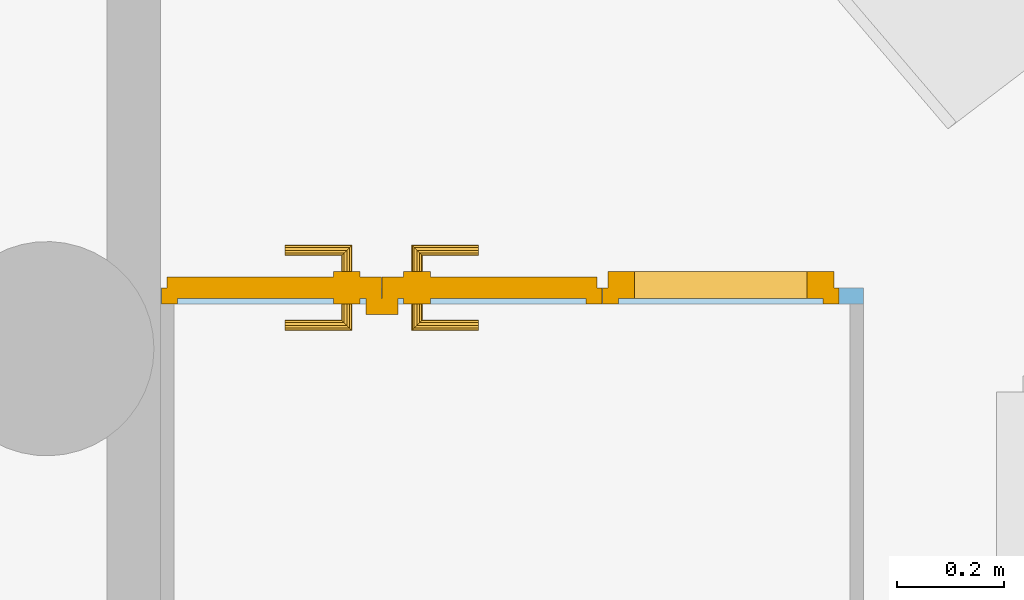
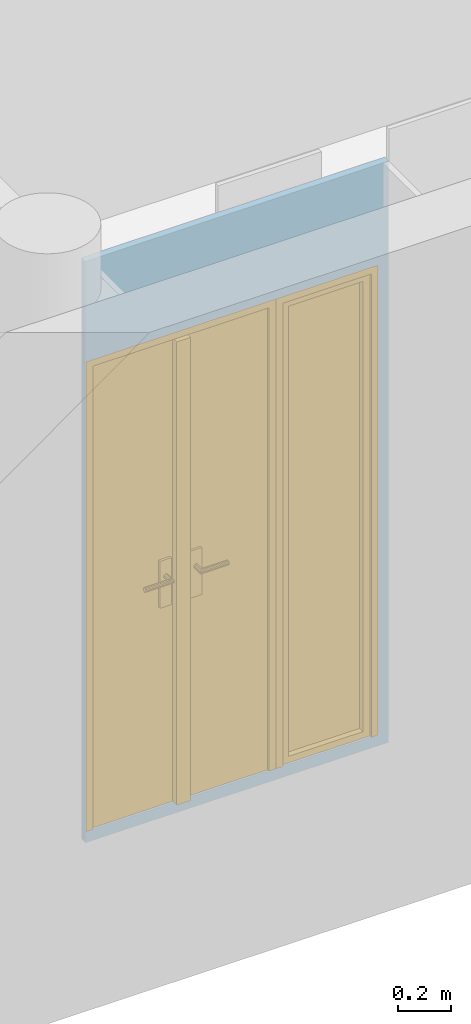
"""IFC4 building model written with IfcOpenShell, lengths in metres."""

from ifc_helpers import new_model, entity, si_unit, converted_unit, derived_unit, frame, frame_2d, origin, origin_with_axes, place, context, subcontext, project, spatial, polyline, rectangle, outline, extrude, closed_shell, open_shell, faceted_brep, surface_model, source, transform, mapped, material, layer, layer_set, layer_usage, type_object, element, fill, save


model = new_model("IFC4")

# Units and contexts
model_context = context("Model", 3, precision=1e-05, world=origin())
body_context = subcontext(model_context, "Body", "Model", "MODEL_VIEW")
ifc_project = project(units=[si_unit("LENGTHUNIT", "METRE"), si_unit("AREAUNIT", "SQUARE_METRE"), si_unit("VOLUMEUNIT", "CUBIC_METRE"), si_unit("MASSUNIT", "GRAM", prefix="KILO"), converted_unit("PLANEANGLEUNIT", "DEGREE", entity("IfcPlaneAngleMeasure", 0.0174532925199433), si_unit("PLANEANGLEUNIT", "RADIAN"), dimensions=[0, 0, 0, 0, 0, 0, 0]), derived_unit("THERMALTRANSMITTANCEUNIT", [(si_unit("POWERUNIT", "WATT"), 1), (si_unit("THERMODYNAMICTEMPERATUREUNIT", "KELVIN"), -1), (si_unit("LENGTHUNIT", "METRE"), -2)]), derived_unit("VOLUMETRICFLOWRATEUNIT", [(si_unit("LENGTHUNIT", "METRE"), 3), (converted_unit("TIMEUNIT", "hour", entity("IfcTimeMeasure", 3600.0), si_unit("TIMEUNIT", "SECOND"), dimensions=[0, 0, 1, 0, 0, 0, 0]), -1), (si_unit("LENGTHUNIT", "METRE"), -1)])], contexts=[model_context])

# Building, storeys
building_placement = place(None, origin())
building = spatial("IfcBuilding", under=ifc_project, at=building_placement, Name="HABITATGE PLURIFAMILIAR", CompositionType="ELEMENT")
storey_1_placement = place(building_placement, frame((0.0, 0.0, 12.27)))
storey_1 = spatial("IfcBuildingStorey", under=building, at=storey_1_placement, Name="PLANTA TERCERA", CompositionType="ELEMENT", Elevation=12.27)
storey_2_placement = place(storey_1_placement, frame((0.0, 0.0, 9.26)))
storey_2 = spatial("IfcBuildingStorey", under=storey_1, at=storey_2_placement, Name="NOU", CompositionType="PARTIAL")

# Wall, openings, doors
ifc_material = material()
ifc_layer = layer(ifc_material, 0.03)
ifc_layer_set = layer_set([ifc_layer])
ifc_layer_usage = layer_usage(ifc_layer_set, "AXIS2", "POSITIVE", 0.0)
wall_placement = place(storey_2_placement, frame((407.361610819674, 13.7631365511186, -9.31), z_axis=(0.0, 0.0, 1.0), x_axis=(-1.0, 0.0, 0.0)))
wall = element("IfcWall", 1, at=wall_placement, inside=storey_2, material=ifc_layer_usage, Name="Evans PA", context=body_context, shape_type="SweptSolid", body=[
    extrude(rectangle(XDim=1.31229787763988, YDim=0.03, at=frame_2d((0.656148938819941, 0.015), x_axis=(1.0, 0.0))), origin_with_axes(), (0.0, 0.0, 1.0), 2.66),
])
opening_1_placement = place(wall_placement, frame((0.487834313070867, 0.0, 0.05), z_axis=(0.0, 1.0, 0.0), x_axis=(0.0, 0.0, 1.0)))
opening_1 = element("IfcOpeningElement", 2, at=opening_1_placement, cuts=wall, Name="Vano de puerta PA", ObjectType="Opening", context=body_context, shape_type="SweptSolid", body=[
    extrude(outline(polyline([(2.15, 0.822674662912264), (2.15, 0.0), (0.0, 0.0), (0.0, 0.822674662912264), (2.15, 0.822674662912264)])), origin_with_axes(), (0.0, 0.0, 1.0), 0.03),
])
opening_2_placement = place(wall_placement, frame((0.0452878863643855, 0.0, 0.05), z_axis=(0.0, 1.0, 0.0), x_axis=(0.0, 0.0, 1.0)))
opening_2 = element("IfcOpeningElement", 3, at=opening_2_placement, cuts=wall, Name="Vano de puerta PA", ObjectType="Opening", context=body_context, shape_type="SweptSolid", body=[
    extrude(outline(polyline([(2.15, 0.441930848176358), (2.15, 0.0), (0.0, 0.0), (0.0, 0.441930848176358), (2.15, 0.441930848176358)])), origin_with_axes(), (0.0, 0.0, 1.0), 0.03),
])
shared_shape_1 = source(origin_with_axes(), body_context, "Body", "Brep", [
    faceted_brep([(0.822674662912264, 0.03, 2.15), (0.792674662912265, 0.03, 2.15), (0.792674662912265, 0.03, 0.0), (0.822674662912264, 0.03, 0.0), (0.822674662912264, 0.0, 0.0), (0.792674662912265, 0.0, 0.0), (0.792674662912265, 0.0, 2.15), (0.822674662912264, 0.0, 2.15)], [[[0, 1, 2, 3]], [[4, 5, 6, 7]], [[3, 4, 7, 0]], [[2, 5, 4, 3]], [[1, 6, 5, 2]], [[0, 7, 6, 1]]], orient=[[False], [False], [False], [False], [False], [False]]),
    faceted_brep([(0.03, 0.03, 2.15), (0.0, 0.03, 2.15), (0.0, 0.03, 0.0), (0.03, 0.03, 0.0), (0.03, 0.0, 0.0), (0.0, 0.0, 0.0), (0.0, 0.0, 2.15), (0.03, 0.0, 2.15)], [[[0, 1, 2, 3]], [[4, 5, 6, 7]], [[3, 4, 7, 0]], [[2, 5, 4, 3]], [[1, 6, 5, 2]], [[0, 7, 6, 1]]], orient=[[False], [False], [False], [False], [False], [False]]),
    faceted_brep([(0.792674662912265, 0.03, 2.15), (0.03, 0.03, 2.15), (0.03, 0.03, 2.12), (0.792674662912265, 0.03, 2.12), (0.792674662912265, 0.0, 2.12), (0.03, 0.0, 2.12), (0.03, 0.0, 2.15), (0.792674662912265, 0.0, 2.15)], [[[0, 1, 2, 3]], [[4, 5, 6, 7]], [[3, 4, 7, 0]], [[2, 5, 4, 3]], [[1, 6, 5, 2]], [[0, 7, 6, 1]]], orient=[[False], [False], [False], [False], [False], [False]]),
    faceted_brep([(0.812674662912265, 0.05, 2.14), (0.411837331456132, 0.05, 2.14), (0.411837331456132, 0.05, 0.0), (0.812674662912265, 0.05, 0.0), (0.812674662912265, 0.01, 0.0), (0.411837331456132, 0.01, 0.0), (0.411837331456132, 0.01, 2.14), (0.812674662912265, 0.01, 2.14)], [[[0, 1, 2, 3]], [[4, 5, 6, 7]], [[3, 4, 7, 0]], [[2, 5, 4, 3]], [[1, 6, 5, 2]], [[0, 7, 6, 1]]], orient=[[False], [False], [False], [False], [False], [False]]),
    faceted_brep([(0.441837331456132, 0.01, 2.12), (0.381837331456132, 0.01, 2.12), (0.381837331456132, 0.01, 0.0), (0.441837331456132, 0.01, 0.0), (0.441837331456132, -0.02, 0.0), (0.381837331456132, -0.02, 0.0), (0.381837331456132, -0.02, 2.12), (0.441837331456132, -0.02, 2.12)], [[[0, 1, 2, 3]], [[4, 5, 6, 7]], [[3, 4, 7, 0]], [[2, 5, 4, 3]], [[1, 6, 5, 2]], [[0, 7, 6, 1]]], orient=[[False], [False], [False], [False], [False], [False]]),
    faceted_brep([(0.50183733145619, 0.01, 1.125), (0.451837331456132, 0.01, 1.125), (0.451837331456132, 0.01, 0.91), (0.50183733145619, 0.01, 0.91), (0.50183733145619, 0.0, 0.91), (0.451837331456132, 0.0, 0.91), (0.451837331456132, 0.0, 1.125), (0.50183733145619, 0.0, 1.125)], [[[0, 1, 2, 3]], [[4, 5, 6, 7]], [[3, 4, 7, 0]], [[2, 5, 4, 3]], [[1, 6, 5, 2]], [[0, 7, 6, 1]]], orient=[[False], [False], [False], [False], [False], [False]]),
    faceted_brep([(0.476837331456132, 0.0, 1.06), (0.471837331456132, 0.0, 1.05866025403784), (0.46817707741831, 0.0, 1.055), (0.466837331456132, 0.0, 1.05), (0.46817707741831, 0.0, 1.045), (0.471837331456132, 0.0, 1.04133974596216), (0.476837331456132, 0.0, 1.04), (0.481837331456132, 0.0, 1.04133974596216), (0.485497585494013, 0.0, 1.045), (0.486837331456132, 0.0, 1.05), (0.485497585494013, 0.0, 1.055), (0.481837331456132, 0.0, 1.05866025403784), (0.476837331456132, -0.04, 1.06), (0.471837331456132, -0.045, 1.05866025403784), (0.46817707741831, -0.0486602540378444, 1.055), (0.466837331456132, -0.05, 1.05), (0.46817707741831, -0.0486602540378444, 1.045), (0.471837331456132, -0.045, 1.04133974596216), (0.476837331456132, -0.04, 1.04), (0.481837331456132, -0.035, 1.04133974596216), (0.485497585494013, -0.0313397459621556, 1.045), (0.486837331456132, -0.03, 1.05), (0.485497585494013, -0.0313397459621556, 1.055), (0.481837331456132, -0.035, 1.05866025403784), (0.59183733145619, -0.04, 1.06), (0.59183733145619, -0.035, 1.05866025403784), (0.59183733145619, -0.0313397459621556, 1.055), (0.59183733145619, -0.03, 1.05), (0.59183733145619, -0.0313397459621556, 1.045), (0.59183733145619, -0.035, 1.04133974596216), (0.59183733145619, -0.04, 1.04), (0.59183733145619, -0.045, 1.04133974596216), (0.59183733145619, -0.0486602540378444, 1.045), (0.59183733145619, -0.05, 1.05), (0.59183733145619, -0.0486602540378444, 1.055), (0.59183733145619, -0.045, 1.05866025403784)], [[[0, 1, 2, 3, 4, 5, 6, 7, 8, 9, 10, 11]], [[0, 12, 13, 1]], [[1, 13, 14, 2]], [[2, 14, 15, 3]], [[3, 15, 16, 4]], [[4, 16, 17, 5]], [[5, 17, 18, 6]], [[6, 18, 19, 7]], [[7, 19, 20, 8]], [[8, 20, 21, 9]], [[9, 21, 22, 10]], [[10, 22, 23, 11]], [[11, 23, 12, 0]], [[24, 25, 26, 27, 28, 29, 30, 31, 32, 33, 34, 35]], [[12, 24, 35, 13]], [[13, 35, 34, 14]], [[14, 34, 33, 15]], [[15, 33, 32, 16]], [[16, 32, 31, 17]], [[17, 31, 30, 18]], [[18, 30, 29, 19]], [[19, 29, 28, 20]], [[20, 28, 27, 21]], [[21, 27, 26, 22]], [[22, 26, 25, 23]], [[23, 25, 24, 12]]], orient=[[False], [False], [False], [False], [False], [False], [False], [False], [False], [False], [False], [False], [False], [False], [False], [False], [False], [False], [False], [False], [False], [False], [False], [False], [False], [False]]),
    faceted_brep([(0.50183733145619, 0.05, 1.125), (0.50183733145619, 0.05, 0.91), (0.451837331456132, 0.05, 0.91), (0.451837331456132, 0.05, 1.125), (0.50183733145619, 0.06, 0.91), (0.50183733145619, 0.06, 1.125), (0.451837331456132, 0.06, 1.125), (0.451837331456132, 0.06, 0.91)], [[[0, 1, 2, 3]], [[4, 5, 6, 7]], [[1, 0, 5, 4]], [[2, 1, 4, 7]], [[3, 2, 7, 6]], [[0, 3, 6, 5]]], orient=[[False], [False], [False], [False], [False], [False]]),
    faceted_brep([(0.476837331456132, 0.06, 1.06), (0.481837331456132, 0.06, 1.05866025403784), (0.485497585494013, 0.06, 1.055), (0.486837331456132, 0.06, 1.05), (0.485497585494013, 0.06, 1.045), (0.481837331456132, 0.06, 1.04133974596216), (0.476837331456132, 0.06, 1.04), (0.471837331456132, 0.06, 1.04133974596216), (0.46817707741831, 0.06, 1.045), (0.466837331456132, 0.06, 1.05), (0.46817707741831, 0.06, 1.055), (0.471837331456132, 0.06, 1.05866025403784), (0.471837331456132, 0.105, 1.05866025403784), (0.476837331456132, 0.1, 1.06), (0.46817707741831, 0.108660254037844, 1.055), (0.466837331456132, 0.11, 1.05), (0.46817707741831, 0.108660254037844, 1.045), (0.471837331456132, 0.105, 1.04133974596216), (0.476837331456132, 0.1, 1.04), (0.481837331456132, 0.095, 1.04133974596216), (0.485497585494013, 0.0913397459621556, 1.045), (0.486837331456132, 0.09, 1.05), (0.485497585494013, 0.0913397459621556, 1.055), (0.481837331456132, 0.095, 1.05866025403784), (0.59183733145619, 0.1, 1.06), (0.59183733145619, 0.105, 1.05866025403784), (0.59183733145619, 0.108660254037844, 1.055), (0.59183733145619, 0.11, 1.05), (0.59183733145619, 0.108660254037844, 1.045), (0.59183733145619, 0.105, 1.04133974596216), (0.59183733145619, 0.1, 1.04), (0.59183733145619, 0.095, 1.04133974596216), (0.59183733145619, 0.0913397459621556, 1.045), (0.59183733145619, 0.09, 1.05), (0.59183733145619, 0.0913397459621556, 1.055), (0.59183733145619, 0.095, 1.05866025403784)], [[[0, 1, 2, 3, 4, 5, 6, 7, 8, 9, 10, 11]], [[0, 11, 12, 13]], [[11, 10, 14, 12]], [[10, 9, 15, 14]], [[9, 8, 16, 15]], [[8, 7, 17, 16]], [[7, 6, 18, 17]], [[6, 5, 19, 18]], [[5, 4, 20, 19]], [[4, 3, 21, 20]], [[3, 2, 22, 21]], [[2, 1, 23, 22]], [[1, 0, 13, 23]], [[24, 25, 26, 27, 28, 29, 30, 31, 32, 33, 34, 35]], [[13, 12, 25, 24]], [[12, 14, 26, 25]], [[14, 15, 27, 26]], [[15, 16, 28, 27]], [[16, 17, 29, 28]], [[17, 18, 30, 29]], [[18, 19, 31, 30]], [[19, 20, 32, 31]], [[20, 21, 33, 32]], [[21, 22, 34, 33]], [[22, 23, 35, 34]], [[23, 13, 24, 35]]], orient=[[False], [False], [False], [False], [False], [False], [False], [False], [False], [False], [False], [False], [False], [False], [False], [False], [False], [False], [False], [False], [False], [False], [False], [False], [False], [False]]),
    faceted_brep([(0.410837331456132, 0.05, 2.14), (0.01, 0.05, 2.14), (0.01, 0.05, 0.0), (0.410837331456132, 0.05, 0.0), (0.410837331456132, 0.01, 0.0), (0.01, 0.01, 0.0), (0.01, 0.01, 2.14), (0.410837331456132, 0.01, 2.14)], [[[0, 1, 2, 3]], [[4, 5, 6, 7]], [[3, 4, 7, 0]], [[2, 5, 4, 3]], [[1, 6, 5, 2]], [[0, 7, 6, 1]]], orient=[[False], [False], [False], [False], [False], [False]]),
    faceted_brep([(0.370837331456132, 0.01, 1.125), (0.320837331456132, 0.01, 1.125), (0.320837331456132, 0.01, 0.91), (0.370837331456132, 0.01, 0.91), (0.370837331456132, 0.0, 0.91), (0.320837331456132, 0.0, 0.91), (0.320837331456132, 0.0, 1.125), (0.370837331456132, 0.0, 1.125)], [[[0, 1, 2, 3]], [[4, 5, 6, 7]], [[3, 4, 7, 0]], [[2, 5, 4, 3]], [[1, 6, 5, 2]], [[0, 7, 6, 1]]], orient=[[False], [False], [False], [False], [False], [False]]),
    faceted_brep([(0.345837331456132, 0.0, 1.06), (0.340837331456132, 0.0, 1.05866025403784), (0.337177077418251, 0.0, 1.055), (0.335837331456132, 0.0, 1.05), (0.337177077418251, 0.0, 1.045), (0.340837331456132, 0.0, 1.04133974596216), (0.345837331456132, 0.0, 1.04), (0.350837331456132, 0.0, 1.04133974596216), (0.354497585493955, 0.0, 1.045), (0.355837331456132, 0.0, 1.05), (0.354497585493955, 0.0, 1.055), (0.350837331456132, 0.0, 1.05866025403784), (0.350837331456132, -0.045, 1.05866025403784), (0.345837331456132, -0.04, 1.06), (0.354497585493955, -0.0486602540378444, 1.055), (0.355837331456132, -0.05, 1.05), (0.354497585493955, -0.0486602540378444, 1.045), (0.350837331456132, -0.045, 1.04133974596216), (0.345837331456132, -0.04, 1.04), (0.340837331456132, -0.035, 1.04133974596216), (0.337177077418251, -0.0313397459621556, 1.045), (0.335837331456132, -0.03, 1.05), (0.337177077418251, -0.0313397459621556, 1.055), (0.340837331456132, -0.035, 1.05866025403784), (0.230837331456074, -0.04, 1.06), (0.230837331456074, -0.045, 1.05866025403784), (0.230837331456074, -0.0486602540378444, 1.055), (0.230837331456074, -0.05, 1.05), (0.230837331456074, -0.0486602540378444, 1.045), (0.230837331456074, -0.045, 1.04133974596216), (0.230837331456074, -0.04, 1.04), (0.230837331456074, -0.035, 1.04133974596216), (0.230837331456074, -0.0313397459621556, 1.045), (0.230837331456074, -0.03, 1.05), (0.230837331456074, -0.0313397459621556, 1.055), (0.230837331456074, -0.035, 1.05866025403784)], [[[0, 1, 2, 3, 4, 5, 6, 7, 8, 9, 10, 11]], [[0, 11, 12, 13]], [[11, 10, 14, 12]], [[10, 9, 15, 14]], [[9, 8, 16, 15]], [[8, 7, 17, 16]], [[7, 6, 18, 17]], [[6, 5, 19, 18]], [[5, 4, 20, 19]], [[4, 3, 21, 20]], [[3, 2, 22, 21]], [[2, 1, 23, 22]], [[1, 0, 13, 23]], [[24, 25, 26, 27, 28, 29, 30, 31, 32, 33, 34, 35]], [[13, 12, 25, 24]], [[12, 14, 26, 25]], [[14, 15, 27, 26]], [[15, 16, 28, 27]], [[16, 17, 29, 28]], [[17, 18, 30, 29]], [[18, 19, 31, 30]], [[19, 20, 32, 31]], [[20, 21, 33, 32]], [[21, 22, 34, 33]], [[22, 23, 35, 34]], [[23, 13, 24, 35]]], orient=[[False], [False], [False], [False], [False], [False], [False], [False], [False], [False], [False], [False], [False], [False], [False], [False], [False], [False], [False], [False], [False], [False], [False], [False], [False], [False]]),
    faceted_brep([(0.370837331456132, 0.05, 1.125), (0.370837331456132, 0.05, 0.91), (0.320837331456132, 0.05, 0.91), (0.320837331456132, 0.05, 1.125), (0.370837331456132, 0.06, 0.91), (0.370837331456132, 0.06, 1.125), (0.320837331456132, 0.06, 1.125), (0.320837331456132, 0.06, 0.91)], [[[0, 1, 2, 3]], [[4, 5, 6, 7]], [[1, 0, 5, 4]], [[2, 1, 4, 7]], [[3, 2, 7, 6]], [[0, 3, 6, 5]]], orient=[[False], [False], [False], [False], [False], [False]]),
    faceted_brep([(0.345837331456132, 0.06, 1.06), (0.350837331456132, 0.06, 1.05866025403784), (0.354497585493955, 0.06, 1.055), (0.355837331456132, 0.06, 1.05), (0.354497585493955, 0.06, 1.045), (0.350837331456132, 0.06, 1.04133974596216), (0.345837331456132, 0.06, 1.04), (0.340837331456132, 0.06, 1.04133974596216), (0.337177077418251, 0.06, 1.045), (0.335837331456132, 0.06, 1.05), (0.337177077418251, 0.06, 1.055), (0.340837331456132, 0.06, 1.05866025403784), (0.345837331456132, 0.1, 1.06), (0.350837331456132, 0.105, 1.05866025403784), (0.354497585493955, 0.108660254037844, 1.055), (0.355837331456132, 0.11, 1.05), (0.354497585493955, 0.108660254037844, 1.045), (0.350837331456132, 0.105, 1.04133974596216), (0.345837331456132, 0.1, 1.04), (0.340837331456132, 0.095, 1.04133974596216), (0.337177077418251, 0.0913397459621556, 1.045), (0.335837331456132, 0.09, 1.05), (0.337177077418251, 0.0913397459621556, 1.055), (0.340837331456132, 0.095, 1.05866025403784), (0.230837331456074, 0.1, 1.06), (0.230837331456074, 0.095, 1.05866025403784), (0.230837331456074, 0.0913397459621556, 1.055), (0.230837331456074, 0.09, 1.05), (0.230837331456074, 0.0913397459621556, 1.045), (0.230837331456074, 0.095, 1.04133974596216), (0.230837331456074, 0.1, 1.04), (0.230837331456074, 0.105, 1.04133974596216), (0.230837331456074, 0.108660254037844, 1.045), (0.230837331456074, 0.11, 1.05), (0.230837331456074, 0.108660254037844, 1.055), (0.230837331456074, 0.105, 1.05866025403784)], [[[0, 1, 2, 3, 4, 5, 6, 7, 8, 9, 10, 11]], [[0, 12, 13, 1]], [[1, 13, 14, 2]], [[2, 14, 15, 3]], [[3, 15, 16, 4]], [[4, 16, 17, 5]], [[5, 17, 18, 6]], [[6, 18, 19, 7]], [[7, 19, 20, 8]], [[8, 20, 21, 9]], [[9, 21, 22, 10]], [[10, 22, 23, 11]], [[11, 23, 12, 0]], [[24, 25, 26, 27, 28, 29, 30, 31, 32, 33, 34, 35]], [[12, 24, 35, 13]], [[13, 35, 34, 14]], [[14, 34, 33, 15]], [[15, 33, 32, 16]], [[16, 32, 31, 17]], [[17, 31, 30, 18]], [[18, 30, 29, 19]], [[19, 29, 28, 20]], [[20, 28, 27, 21]], [[21, 27, 26, 22]], [[22, 26, 25, 23]], [[23, 25, 24, 12]]], orient=[[False], [False], [False], [False], [False], [False], [False], [False], [False], [False], [False], [False], [False], [False], [False], [False], [False], [False], [False], [False], [False], [False], [False], [False], [False], [False]]),
])
door_1_placement = place(opening_1_placement, frame((0.0, 0.822674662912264, 0.03), z_axis=(1.0, 0.0, 0.0), x_axis=(0.0, -1.0, 0.0)))
door_1 = element("IfcDoor", 4, at=door_1_placement, inside=storey_2, Name="Porta PA", OperationType="USERDEFINED", OverallHeight=2.15, OverallWidth=0.82267, PredefinedType="DOOR", context=body_context, shape_type="MappedRepresentation", body=[
    mapped(shared_shape_1, transform((0.0, 0.0, 0.0), x_axis=(1.0, 0.0, 0.0), y_axis=(0.0, 1.0, 0.0), z_axis=(0.0, 0.0, 1.0), scale=1.0)),
])
fill(opening_1, door_1)
door_type = type_object("IfcDoorType", Name="Porta PA", OperationType="SINGLE_SWING_RIGHT", ParameterTakesPrecedence=False, PredefinedType="DOOR")
shared_shape_2 = source(origin_with_axes(), body_context, "Body", "SurfaceModel", [
    surface_model("IfcShellBasedSurfaceModel", [(0.0, 0.03, 2.15), (0.0, 0.03, 0.0), (0.03, 0.03, 0.0), (0.03, 0.03, 2.15), (0.0, 0.0, 0.0), (0.0, 0.0, 2.15), (0.03, 0.0, 2.15), (0.03, 0.0, 0.0)], [closed_shell([[[0, 1, 2, 3]], [[4, 5, 6, 7]], [[1, 0, 5, 4]], [[2, 1, 4, 7]], [[3, 2, 7, 6]], [[0, 3, 6, 5]]], orient=[[False], [False], [False], [False], [False], [False]])]),
    surface_model("IfcShellBasedSurfaceModel", [(0.411930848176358, 0.03, 2.15), (0.411930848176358, 0.03, 0.0), (0.441930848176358, 0.03, 0.0), (0.441930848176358, 0.03, 2.15), (0.411930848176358, 0.0, 0.0), (0.411930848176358, 0.0, 2.15), (0.441930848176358, 0.0, 2.15), (0.441930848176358, 0.0, 0.0)], [closed_shell([[[0, 1, 2, 3]], [[4, 5, 6, 7]], [[1, 0, 5, 4]], [[2, 1, 4, 7]], [[3, 2, 7, 6]], [[0, 3, 6, 5]]], orient=[[False], [False], [False], [False], [False], [False]])]),
    surface_model("IfcShellBasedSurfaceModel", [(0.03, 0.03, 2.15), (0.03, 0.03, 2.12), (0.411930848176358, 0.03, 2.12), (0.411930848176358, 0.03, 2.15), (0.03, 0.0, 2.12), (0.03, 0.0, 2.15), (0.411930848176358, 0.0, 2.15), (0.411930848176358, 0.0, 2.12)], [closed_shell([[[0, 1, 2, 3]], [[4, 5, 6, 7]], [[1, 0, 5, 4]], [[2, 1, 4, 7]], [[3, 2, 7, 6]], [[0, 3, 6, 5]]], orient=[[False], [False], [False], [False], [False], [False]])]),
    surface_model("IfcShellBasedSurfaceModel", [(0.01, 0.06, 2.14), (0.01, 0.06, -0.02), (0.0600000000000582, 0.06, -0.02), (0.0600000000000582, 0.06, 2.14), (0.01, 0.01, -0.02), (0.01, 0.01, 2.14), (0.0600000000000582, 0.01, 2.14), (0.0600000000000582, 0.01, -0.02)], [closed_shell([[[0, 1, 2, 3]], [[4, 5, 6, 7]], [[1, 0, 5, 4]], [[2, 1, 4, 7]], [[3, 2, 7, 6]], [[0, 3, 6, 5]]], orient=[[False], [False], [False], [False], [False], [False]])]),
    surface_model("IfcShellBasedSurfaceModel", [(0.3819308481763, 0.06, 2.14), (0.3819308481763, 0.06, -0.02), (0.431930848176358, 0.06, -0.02), (0.431930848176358, 0.06, 2.14), (0.3819308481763, 0.01, -0.02), (0.3819308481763, 0.01, 2.14), (0.431930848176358, 0.01, 2.14), (0.431930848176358, 0.01, -0.02)], [closed_shell([[[0, 1, 2, 3]], [[4, 5, 6, 7]], [[1, 0, 5, 4]], [[2, 1, 4, 7]], [[3, 2, 7, 6]], [[0, 3, 6, 5]]], orient=[[False], [False], [False], [False], [False], [False]])]),
    surface_model("IfcShellBasedSurfaceModel", [(0.0600000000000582, 0.06, 0.03), (0.0600000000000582, 0.06, -0.02), (0.3819308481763, 0.06, -0.02), (0.3819308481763, 0.06, 0.03), (0.0600000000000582, 0.01, -0.02), (0.0600000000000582, 0.01, 0.03), (0.3819308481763, 0.01, 0.03), (0.3819308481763, 0.01, -0.02)], [closed_shell([[[0, 1, 2, 3]], [[4, 5, 6, 7]], [[1, 0, 5, 4]], [[2, 1, 4, 7]], [[3, 2, 7, 6]], [[0, 3, 6, 5]]], orient=[[False], [False], [False], [False], [False], [False]])]),
    surface_model("IfcShellBasedSurfaceModel", [(0.0600000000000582, 0.06, 2.14), (0.0600000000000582, 0.06, 2.09), (0.3819308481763, 0.06, 2.09), (0.3819308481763, 0.06, 2.14), (0.0600000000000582, 0.01, 2.09), (0.0600000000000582, 0.01, 2.14), (0.3819308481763, 0.01, 2.14), (0.3819308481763, 0.01, 2.09)], [closed_shell([[[0, 1, 2, 3]], [[4, 5, 6, 7]], [[1, 0, 5, 4]], [[2, 1, 4, 7]], [[3, 2, 7, 6]], [[0, 3, 6, 5]]], orient=[[False], [False], [False], [False], [False], [False]])]),
    surface_model("IfcShellBasedSurfaceModel", [(0.0600000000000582, 0.035, 0.03), (0.3819308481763, 0.035, 0.03), (0.3819308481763, 0.035, 2.09), (0.0600000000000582, 0.035, 2.09)], [open_shell([[[0, 1, 2, 3]]], orient=[[False]])]),
])
door_2_placement = place(opening_2_placement, frame((0.0, 0.441930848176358, 0.03), z_axis=(1.0, 0.0, 0.0), x_axis=(0.0, -1.0, 0.0)))
door_2 = element("IfcDoor", 5, at=door_2_placement, inside=storey_2, type_object=door_type, Name="Porta PA", OverallHeight=2.15, OverallWidth=0.44193, context=body_context, shape_type="MappedRepresentation", body=[
    mapped(shared_shape_2, transform((0.0, 0.0, 0.0), x_axis=(1.0, 0.0, 0.0), y_axis=(0.0, 1.0, 0.0), z_axis=(0.0, 0.0, 1.0), scale=1.0)),
])
fill(opening_2, door_2)

save(model, "model.ifc")
